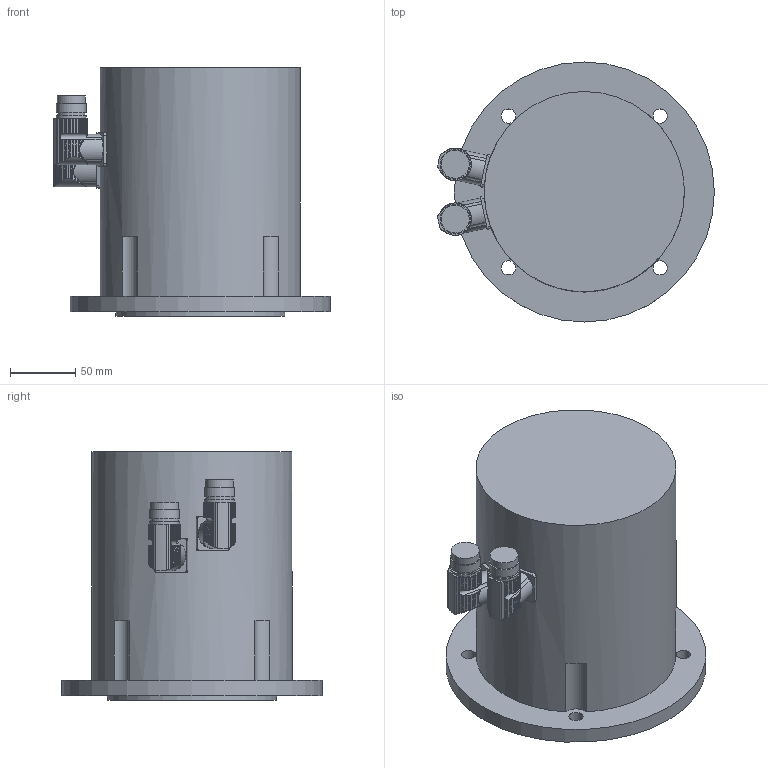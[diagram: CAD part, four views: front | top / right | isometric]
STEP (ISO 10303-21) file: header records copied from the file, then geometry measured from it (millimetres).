
FILE_DESCRIPTION(/* description */ (''),/* implementation_level */ '2;1');
FILE_NAME(/* name */ 'MH4151-Ux-Nxxx-Gxx-M0-P5',/* time_stamp */ '2008-09-01T09:47:14+02:00',/* author */ (''),/* organization */ (''),/* preprocessor_version */ 'ST-DEVELOPER v8',/* originating_system */ 'UNIGRAPHICS SOLUTIONS - UNIGRAPHICS 18.0',/* authorisation */ '');
FILE_SCHEMA (('AUTOMOTIVE_DESIGN { 1 2 10303 214 0 1 1 1 }'));
Length unit declared in the file: millimetre
Products named in the file (2): Winkelflanschdose_0; MH4151_Ux_Nxxx_Gxx_M0_P5_0
Assembly tree (2 placements, depth 2):
  MH4151_Ux_Nxxx_Gxx_M0_P5_0
    Winkelflanschdose_0  x2
Bounding box: 212.78 x 200 x 191.5 mm (x, y, z)
Volume: 3683696.5 mm3; surface area: 180161.6 mm2
Topology: 3 solids, 3 shells, 380 faces, 1037 edges, 692 vertices
Faces by surface type: cylinder 312, plane 67, torus 1
Full cylindrical faces by diameter (mm): 6.985 x7, 8 x1, 11 x4, 16 x2, 20 x2, 21 x2, 21.5 x2, 23 x4, 31.5 x1, 65 x1, 110 x1, 130 x1, 154 x1, 200 x1
Entity records: 7008 total; most frequent: CARTESIAN_POINT 1750, ORIENTED_EDGE 1076, DIRECTION 1058, EDGE_CURVE 538, AXIS2_PLACEMENT_3D 441, VERTEX_POINT 375, EDGE_LOOP 273, CIRCLE 220
